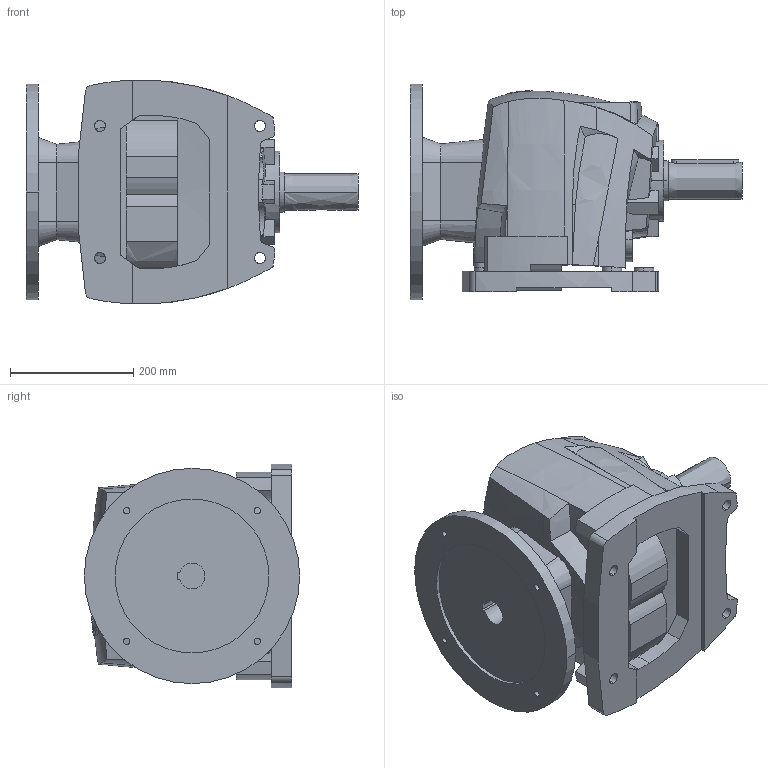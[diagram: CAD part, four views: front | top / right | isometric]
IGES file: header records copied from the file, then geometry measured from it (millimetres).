
Start section:  PTC IGES file: r50_sw_pam160_d2.igs
Global section: file name: r50_sw_pam160_d2.igs; native system: Pro/ENGINEER by Parametric Technology Corporation; preprocessor: 2008230; author: Luca; organization: Unknown; date: 20131221.103208; units: millimetre
Bounding box: 539.5 x 350 x 363.44 mm (x, y, z)
Volume: 26825438.6 mm3; surface area: 938397.1 mm2
Topology: 1 solids, 1 shells, 435 faces, 1246 edges, 841 vertices
Faces by surface type: bspline 263, revolution 172
